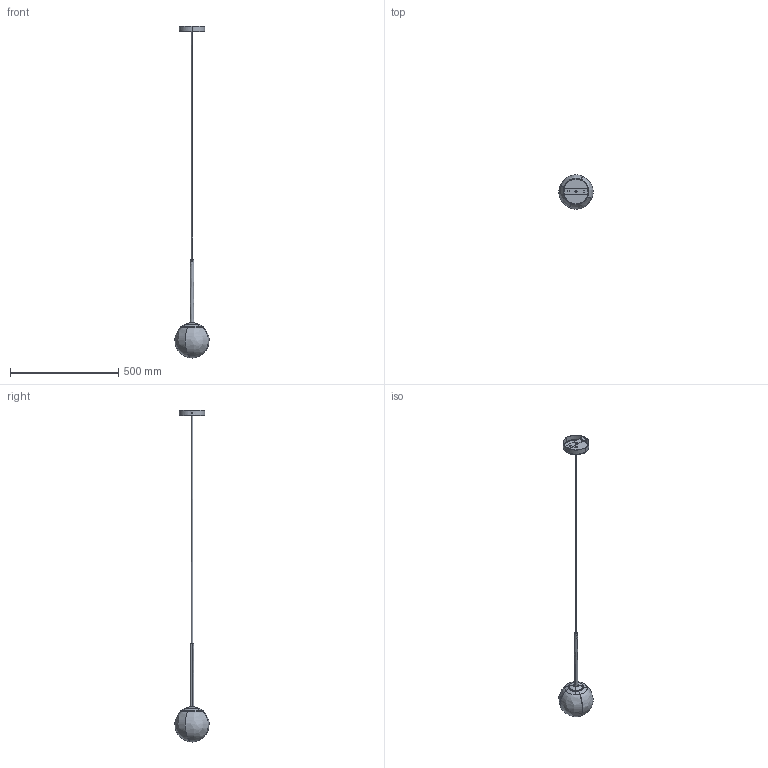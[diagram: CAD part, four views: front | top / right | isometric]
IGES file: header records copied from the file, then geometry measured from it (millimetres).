
Start section: Comment
Global section: file name: PRJ 192_Sospensione singola vetro piccolo.igs; native system:  By UGS Corp.; preprocessor: XPlus GENERIC/IGES 3.0; author: Author; organization: Title; date: 20240509.094808; units: inch
Bounding box: 159.39 x 159.39 x 1534.5 mm (x, y, z)
Surface area: 286202.6 mm2 (no closed solid volume)
Topology: 0 solids, 0 shells, 250 faces, 1150 edges, 1138 vertices
Faces by surface type: bspline 250
